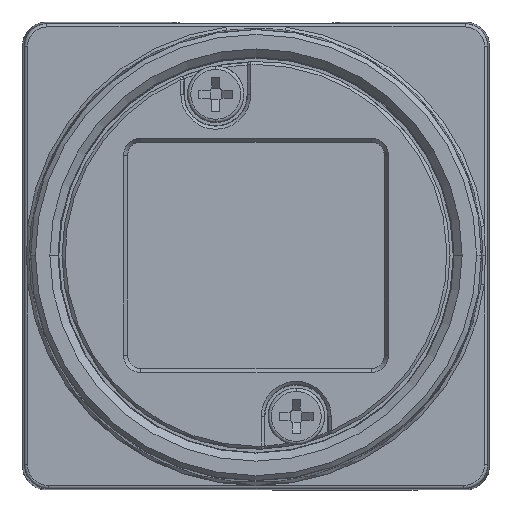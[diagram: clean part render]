
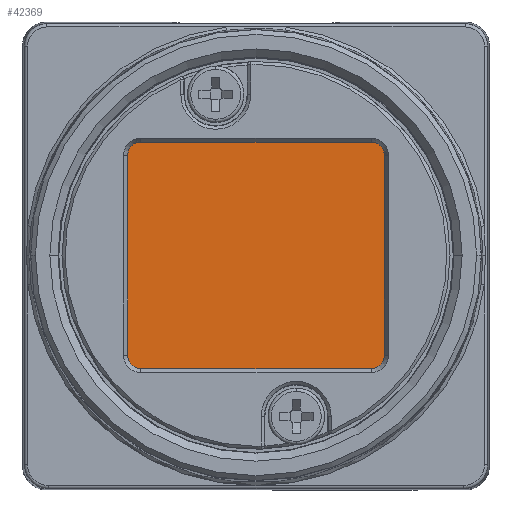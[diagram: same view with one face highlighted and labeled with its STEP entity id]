
A CAD part, top view. The second image highlights one B-rep face of the part: STEP entity #42369.
In plain terms, the highlighted planar face has unit normal (0, 0, 1).
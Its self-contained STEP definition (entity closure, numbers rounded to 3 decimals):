
#15035=CARTESIAN_POINT('',(-7.15,-6.2,-1.35));
#15036=DIRECTION('',(0.,0.,1.));
#15037=DIRECTION('',(-1.,0.,0.));
#15038=AXIS2_PLACEMENT_3D('',#15035,#15036,#15037);
#15050=DIRECTION('',(-1.,0.,0.));
#15051=VECTOR('',#15050,14.3);
#15052=CARTESIAN_POINT('',(7.15,7.03,-1.35));
#15053=LINE('',#15052,#15051);
#15064=CARTESIAN_POINT('',(-7.15,6.2,-1.35));
#15065=DIRECTION('',(0.,0.,1.));
#15066=DIRECTION('',(0.,1.,0.));
#15067=AXIS2_PLACEMENT_3D('',#15064,#15065,#15066);
#15079=DIRECTION('',(0.,-1.,0.));
#15080=VECTOR('',#15079,12.4);
#15081=CARTESIAN_POINT('',(-7.98,6.2,-1.35));
#15082=LINE('',#15081,#15080);
#15151=CARTESIAN_POINT('',(7.15,6.2,-1.35));
#15152=DIRECTION('',(0.,0.,1.));
#15153=DIRECTION('',(1.,0.,0.));
#15154=AXIS2_PLACEMENT_3D('',#15151,#15152,#15153);
#15166=DIRECTION('',(0.,1.,0.));
#15167=VECTOR('',#15166,12.4);
#15168=CARTESIAN_POINT('',(7.98,-6.2,-1.35));
#15169=LINE('',#15168,#15167);
#15209=CARTESIAN_POINT('',(7.15,-6.2,-1.35));
#15210=DIRECTION('',(0.,0.,1.));
#15211=DIRECTION('',(0.,-1.,0.));
#15212=AXIS2_PLACEMENT_3D('',#15209,#15210,#15211);
#15224=DIRECTION('',(1.,0.,0.));
#15225=VECTOR('',#15224,14.3);
#15226=CARTESIAN_POINT('',(-7.15,-7.03,-1.35));
#15227=LINE('',#15226,#15225);
#25830=CARTESIAN_POINT('',(7.15,7.03,-1.35));
#25831=CARTESIAN_POINT('',(-7.15,7.03,-1.35));
#25832=VERTEX_POINT('',#25830);
#25833=VERTEX_POINT('',#25831);
#25834=CARTESIAN_POINT('',(-7.98,6.2,-1.35));
#25835=VERTEX_POINT('',#25834);
#25836=CARTESIAN_POINT('',(-7.98,-6.2,-1.35));
#25837=VERTEX_POINT('',#25836);
#25838=CARTESIAN_POINT('',(-7.15,-7.03,-1.35));
#25839=VERTEX_POINT('',#25838);
#25840=CARTESIAN_POINT('',(7.15,-7.03,-1.35));
#25841=VERTEX_POINT('',#25840);
#25842=CARTESIAN_POINT('',(7.98,-6.2,-1.35));
#25843=VERTEX_POINT('',#25842);
#25844=CARTESIAN_POINT('',(7.98,6.2,-1.35));
#25845=VERTEX_POINT('',#25844);
#42347=CARTESIAN_POINT('',(0.,0.,-1.35));
#42348=DIRECTION('',(0.,0.,1.));
#42349=DIRECTION('',(1.,0.,0.));
#42350=AXIS2_PLACEMENT_3D('',#42347,#42348,#42349);
#42351=PLANE('',#42350);
#42353=ORIENTED_EDGE('',*,*,#42352,.F.);
#42355=ORIENTED_EDGE('',*,*,#42354,.F.);
#42357=ORIENTED_EDGE('',*,*,#42356,.F.);
#42359=ORIENTED_EDGE('',*,*,#42358,.F.);
#42361=ORIENTED_EDGE('',*,*,#42360,.F.);
#42362=ORIENTED_EDGE('',*,*,#42337,.F.);
#42364=ORIENTED_EDGE('',*,*,#42363,.F.);
#42366=ORIENTED_EDGE('',*,*,#42365,.F.);
#42367=EDGE_LOOP('',(#42353,#42355,#42357,#42359,#42361,#42362,#42364,#42366));
#42368=FACE_OUTER_BOUND('',#42367,.F.);
#42369=ADVANCED_FACE('',(#42368),#42351,.T.);
#15039=CIRCLE('',#15038,0.83);
#15068=CIRCLE('',#15067,0.83);
#15155=CIRCLE('',#15154,0.83);
#15213=CIRCLE('',#15212,0.83);
#42337=EDGE_CURVE('',#25837,#25839,#15039,.T.);
#42352=EDGE_CURVE('',#25832,#25833,#15053,.T.);
#42354=EDGE_CURVE('',#25845,#25832,#15155,.T.);
#42356=EDGE_CURVE('',#25843,#25845,#15169,.T.);
#42358=EDGE_CURVE('',#25841,#25843,#15213,.T.);
#42360=EDGE_CURVE('',#25839,#25841,#15227,.T.);
#42363=EDGE_CURVE('',#25835,#25837,#15082,.T.);
#42365=EDGE_CURVE('',#25833,#25835,#15068,.T.);
